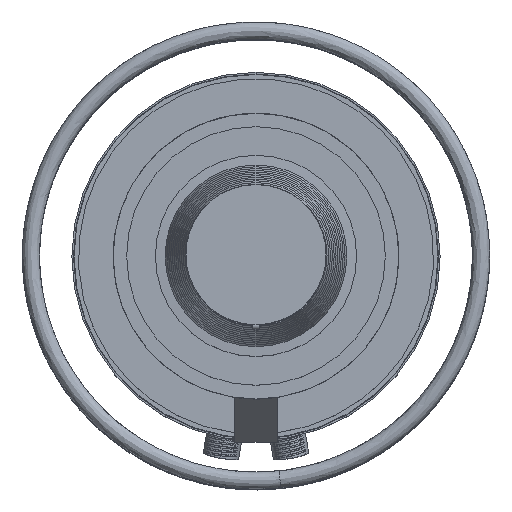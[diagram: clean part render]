
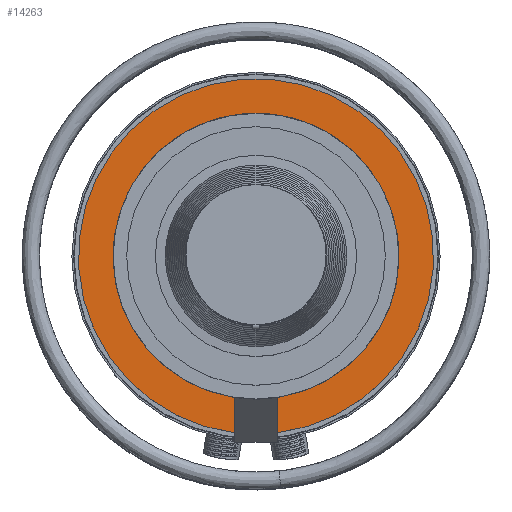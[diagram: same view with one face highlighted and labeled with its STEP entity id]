
A CAD part, top view. The second image highlights one B-rep face of the part: STEP entity #14263.
In plain terms, the highlighted planar face has unit normal (0, 0, 1).
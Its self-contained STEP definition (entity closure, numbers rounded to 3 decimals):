
#569=LINE('',#30169,#1364);
#570=LINE('',#30172,#1365);
#1364=VECTOR('',#16906,10.);
#1365=VECTOR('',#16909,10.);
#2102=PLANE('',#15258);
#2521=FACE_OUTER_BOUND('',#3339,.T.);
#3339=EDGE_LOOP('',(#10064,#10065,#10066,#10067));
#4922=CIRCLE('',#15259,101.5);
#4923=CIRCLE('',#15260,163.5);
#5612=VERTEX_POINT('',#30165);
#5613=VERTEX_POINT('',#30166);
#5614=VERTEX_POINT('',#30168);
#5615=VERTEX_POINT('',#30170);
#7244=EDGE_CURVE('',#5612,#5613,#4922,.T.);
#7245=EDGE_CURVE('',#5612,#5614,#569,.T.);
#7246=EDGE_CURVE('',#5615,#5614,#4923,.T.);
#7247=EDGE_CURVE('',#5613,#5615,#570,.T.);
#10064=ORIENTED_EDGE('',*,*,#7244,.F.);
#10065=ORIENTED_EDGE('',*,*,#7245,.T.);
#10066=ORIENTED_EDGE('',*,*,#7246,.F.);
#10067=ORIENTED_EDGE('',*,*,#7247,.F.);
#14263=ADVANCED_FACE('',(#2521),#2102,.T.);
#15258=AXIS2_PLACEMENT_3D('',#30164,#16902,#16903);
#15259=AXIS2_PLACEMENT_3D('',#30167,#16904,#16905);
#15260=AXIS2_PLACEMENT_3D('',#30171,#16907,#16908);
#16902=DIRECTION('center_axis',(0.,0.,
1.));
#16903=DIRECTION('ref_axis',(-1.,0.,0.));
#16904=DIRECTION('center_axis',(0.,0.,
1.));
#16905=DIRECTION('ref_axis',(0.,1.,0.));
#16906=DIRECTION('',(0.,-1.,0.));
#16907=DIRECTION('center_axis',(0.,0.,
-1.));
#16908=DIRECTION('ref_axis',(0.,1.,0.));
#16909=DIRECTION('',(0.,-1.,0.));
#30164=CARTESIAN_POINT('Origin',(0.,135.,181.219));
#30165=CARTESIAN_POINT('',(19.5,-99.609,181.219));
#30166=CARTESIAN_POINT('',(-19.5,-99.609,181.219));
#30167=CARTESIAN_POINT('Origin',(0.,0.,
181.219));
#30168=CARTESIAN_POINT('',(19.5,-162.333,181.219));
#30169=CARTESIAN_POINT('',(19.5,-14.334,181.219));
#30170=CARTESIAN_POINT('',(-19.5,-162.333,181.219));
#30171=CARTESIAN_POINT('Origin',(0.,0.,
181.219));
#30172=CARTESIAN_POINT('',(-19.5,-7.839,181.219));
